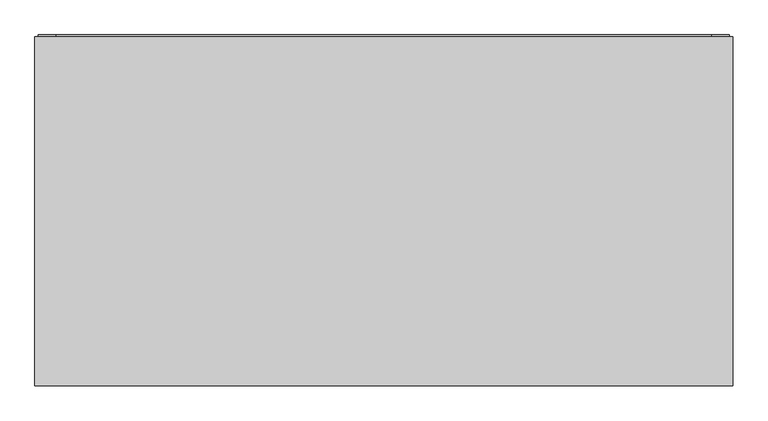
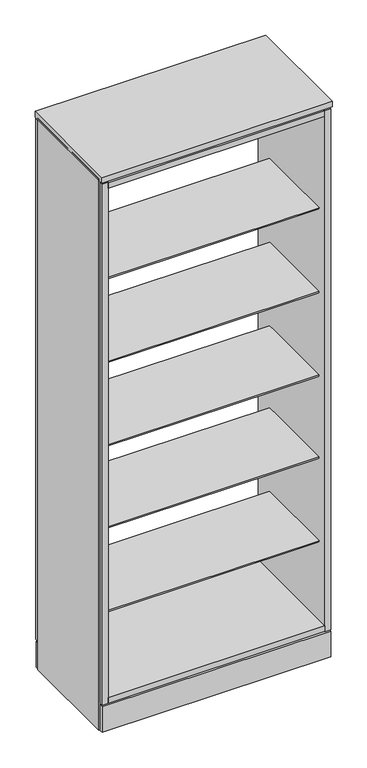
"""IFC4 building model written with IfcOpenShell, lengths in millimetres: furniture geometry, Furniture_Storage_Spacestor_SignatureStoragewall : Display Module Backless."""

from ifc_helpers import new_model, si_unit, frame, origin, origin_with_axes, place, context, project, spatial, polyline, outline, extrude, source, transform, mapped, element, save


def furniture_3b9fb04d(model_context):
    return source(origin(), model_context, "Body", "SweptSolid", [
        extrude(outline(polyline([(996.5, 459.0), (3.5, 459.0), (3.5, 477.0), (996.5, 477.0), (996.5, 459.0)])), origin_with_axes(), (0.0, 0.0, 1.0), 118.0),
        extrude(outline(polyline([(996.5, -18.0), (3.5, -18.0), (3.5, 0.0), (996.5, 0.0), (996.5, -18.0)])), origin_with_axes(), (0.0, 0.0, 1.0), 118.0),
        extrude(outline(polyline([(1000.0, -20.5), (0.0, -20.5), (0.0, 479.5), (1000.0, 479.5), (1000.0, -20.5)])), frame((0.0, 0.0, 2525.0), z_axis=(0.0, 0.0, 1.0), x_axis=(1.0, 0.0, 0.0)), (0.0, 0.0, 1.0), 25.5),
        extrude(outline(polyline([(1000.0, 0.0), (989.0, 0.0), (989.0, 459.0), (1000.0, 459.0), (1000.0, 0.0)])), origin_with_axes(), (0.0, 0.0, 1.0), 2532.5),
        extrude(outline(polyline([(11.0, 0.0), (0.0, 0.0), (0.0, 459.0), (11.0, 459.0), (11.0, 0.0)])), origin_with_axes(), (0.0, 0.0, 1.0), 2532.5),
        extrude(outline(polyline([(970.5, 25.0), (29.5, 25.0), (29.5, 398.0), (970.5, 398.0), (970.5, 25.0)])), frame((0.0, 0.0, 2039.0), z_axis=(0.0, 0.0, 1.0), x_axis=(1.0, 0.0, 0.0)), (0.0, 0.0, 1.0), 6.0),
        extrude(outline(polyline([(970.5, 25.0), (29.5, 25.0), (29.5, 398.0), (970.5, 398.0), (970.5, 25.0)])), frame((0.0, 0.0, 894.5), z_axis=(0.0, 0.0, 1.0), x_axis=(1.0, 0.0, 0.0)), (0.0, 0.0, 1.0), 6.0),
        extrude(outline(polyline([(970.5, 25.0), (29.5, 25.0), (29.5, 398.0), (970.5, 398.0), (970.5, 25.0)])), frame((0.0, 0.0, 510.5), z_axis=(0.0, 0.0, 1.0), x_axis=(1.0, 0.0, 0.0)), (0.0, 0.0, 1.0), 6.0),
        extrude(outline(polyline([(970.5, 25.0), (29.5, 25.0), (29.5, 398.0), (970.5, 398.0), (970.5, 25.0)])), frame((0.0, 0.0, 1655.0), z_axis=(0.0, 0.0, 1.0), x_axis=(1.0, 0.0, 0.0)), (0.0, 0.0, 1.0), 6.0),
        extrude(outline(polyline([(970.5, 25.0), (29.5, 25.0), (29.5, 398.0), (970.5, 398.0), (970.5, 25.0)])), frame((0.0, 0.0, 1271.0), z_axis=(0.0, 0.0, 1.0), x_axis=(1.0, 0.0, 0.0)), (0.0, 0.0, 1.0), 6.0),
        extrude(outline(polyline([(989.0, 0.0), (11.0, 0.0), (11.0, 459.0), (989.0, 459.0), (989.0, 0.0)])), frame((0.0, 0.0, 110.5), z_axis=(0.0, 0.0, 1.0), x_axis=(1.0, 0.0, 0.0)), (0.0, 0.0, 1.0), 22.0),
        extrude(outline(polyline([(989.0, 0.0), (11.0, 0.0), (11.0, 459.0), (989.0, 459.0), (989.0, 0.0)])), frame((0.0, 0.0, 2510.0), z_axis=(0.0, 0.0, 1.0), x_axis=(1.0, 0.0, 0.0)), (0.0, 0.0, 1.0), 22.0),
        extrude(outline(polyline([(970.5, -18.0), (29.5, -18.0), (29.5, 482.0), (970.5, 482.0), (970.5, -18.0)])), frame((0.0, 0.0, 125.5), z_axis=(0.0, 0.0, 1.0), x_axis=(1.0, 0.0, 0.0)), (0.0, 0.0, 1.0), 25.0),
        extrude(outline(polyline([(29.5, -18.0), (4.5, -18.0), (4.5, 482.0), (29.5, 482.0), (29.5, -18.0)])), frame((0.0, 0.0, 125.0), z_axis=(0.0, 0.0, 1.0), x_axis=(1.0, 0.0, 0.0)), (0.0, 0.0, 1.0), 2391.0),
        extrude(outline(polyline([(995.5, -18.0), (970.5, -18.0), (970.5, 482.0), (995.5, 482.0), (995.5, -18.0)])), frame((0.0, 0.0, 125.0), z_axis=(0.0, 0.0, 1.0), x_axis=(1.0, 0.0, 0.0)), (0.0, 0.0, 1.0), 2391.0),
        extrude(outline(polyline([(970.5, -18.0), (29.5, -18.0), (29.5, 482.0), (970.5, 482.0), (970.5, -18.0)])), frame((0.0, 0.0, 2490.5), z_axis=(0.0, 0.0, 1.0), x_axis=(1.0, 0.0, 0.0)), (0.0, 0.0, 1.0), 25.0),
    ])


if __name__ == "__main__":
    model = new_model("IFC4")
    model_context = context("Model", 3, world=origin())
    ifc_project = project(units=[si_unit("LENGTHUNIT", "METRE", prefix="MILLI")], contexts=[model_context])
    site = spatial("IfcSite", under=ifc_project)
    building = spatial("IfcBuilding", under=site)
    placement = place(None, origin())
    furniture_shape = furniture_3b9fb04d(model_context)
    element("IfcFurniture", 1, ObjectType="Furniture_Storage_Spacestor_SignatureStoragewall : Display Module Backless", at=placement, inside=building, context=model_context, shape_type="MappedRepresentation", body=[
        mapped(furniture_shape, transform((0.0, 0.0, 0.0), x_axis=(1.0, 0.0, 0.0), y_axis=(0.0, 1.0, 0.0), z_axis=(0.0, 0.0, 1.0))),
    ])
    save(model, "model.ifc")
